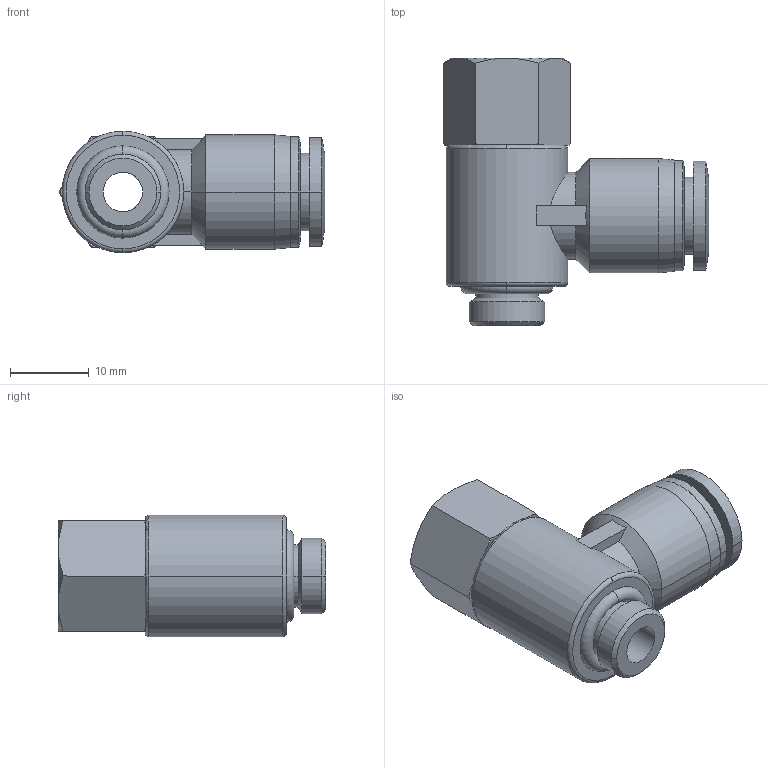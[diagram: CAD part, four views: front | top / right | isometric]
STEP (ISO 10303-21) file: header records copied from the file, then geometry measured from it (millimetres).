
FILE_DESCRIPTION (( 'STEP AP203' ), '1' );
FILE_NAME ('FVF08-01.STEP', '2020-05-11T14:29:03', ( '' ), ( '' ), 'SwSTEP 2.0', 'SolidWorks 2019', '' );
FILE_SCHEMA (( 'CONFIG_CONTROL_DESIGN' ));
Length unit declared in the file: millimetre
Products named in the file (1): FVF08-01
Bounding box: 33.68 x 33.9 x 15.4 mm (x, y, z)
Volume: 6043.2 mm3; surface area: 4145.4 mm2
Topology: 1 solids, 1 shells, 92 faces, 219 edges, 134 vertices
Faces by surface type: plane 33, cone 26, cylinder 25, torus 6, bspline 2
Entity records: 2904 total; most frequent: CARTESIAN_POINT 728, DIRECTION 467, ORIENTED_EDGE 438, EDGE_CURVE 219, AXIS2_PLACEMENT_3D 197, VERTEX_POINT 134, CIRCLE 106, EDGE_LOOP 101
